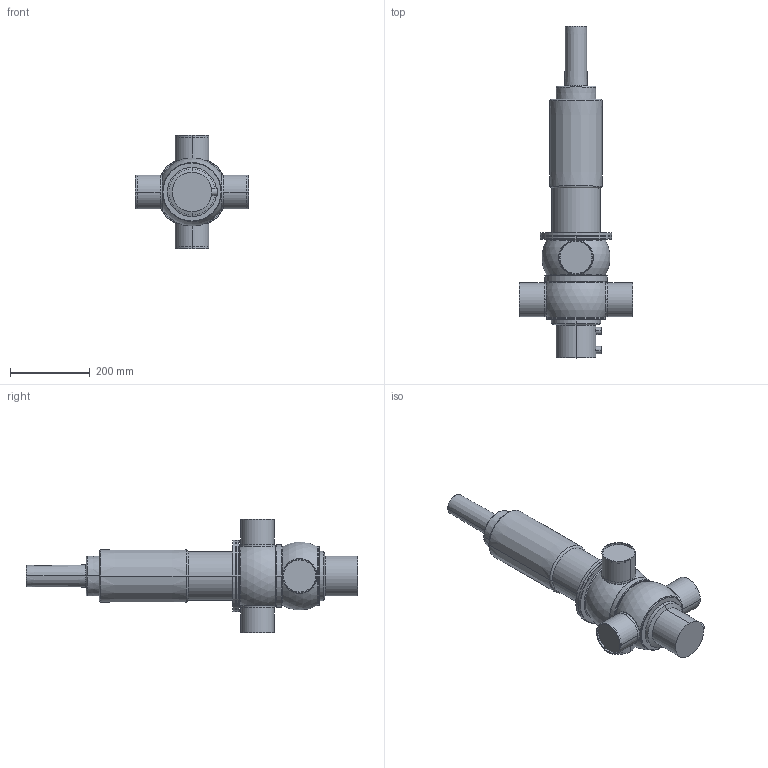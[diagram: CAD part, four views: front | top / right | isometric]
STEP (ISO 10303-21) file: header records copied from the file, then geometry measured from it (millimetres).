
FILE_DESCRIPTION(('Creo Elements/Direct Modeling STEP Export'),'2;1');
FILE_NAME('D44-80_prox..stp','2019-09-03T15:54:27',(''),(''),'PTC Creo Elements/Direct Modeling STEP processor for AP214 (Solid Model)','PTC Creo Elements/Direct Modeling 19.0B 21-Mar-2015 (C) Parametric Technology GmbH','');
FILE_SCHEMA(('AUTOMOTIVE_DESIGN { 1 0 10303 214 1 1 1 1 }'));
Length unit declared in the file: millimetre
Products named in the file (5): D4_Prox._holder.; actuator_D4-125_yoke; drain_pipe_92; housing_D44-80; D44-80_prox
Assembly tree (4 placements, depth 2):
  D44-80_prox
    housing_D44-80
    drain_pipe_92
    actuator_D4-125_yoke
    D4_Prox._holder.
Bounding box: 285 x 835 x 285 mm (x, y, z)
Volume: 11747573.9 mm3; surface area: 550325.2 mm2
Topology: 4 solids, 4 shells, 135 faces, 286 edges, 173 vertices
Faces by surface type: cylinder 48, torus 40, plane 28, cone 14, sphere 5
Entity records: 4191 total; most frequent: CARTESIAN_POINT 1375, DIRECTION 578, ORIENTED_EDGE 568, EDGE_CURVE 284, AXIS2_PLACEMENT_3D 258, VERTEX_POINT 173, EDGE_LOOP 151, FACE_OUTER_BOUND 135
